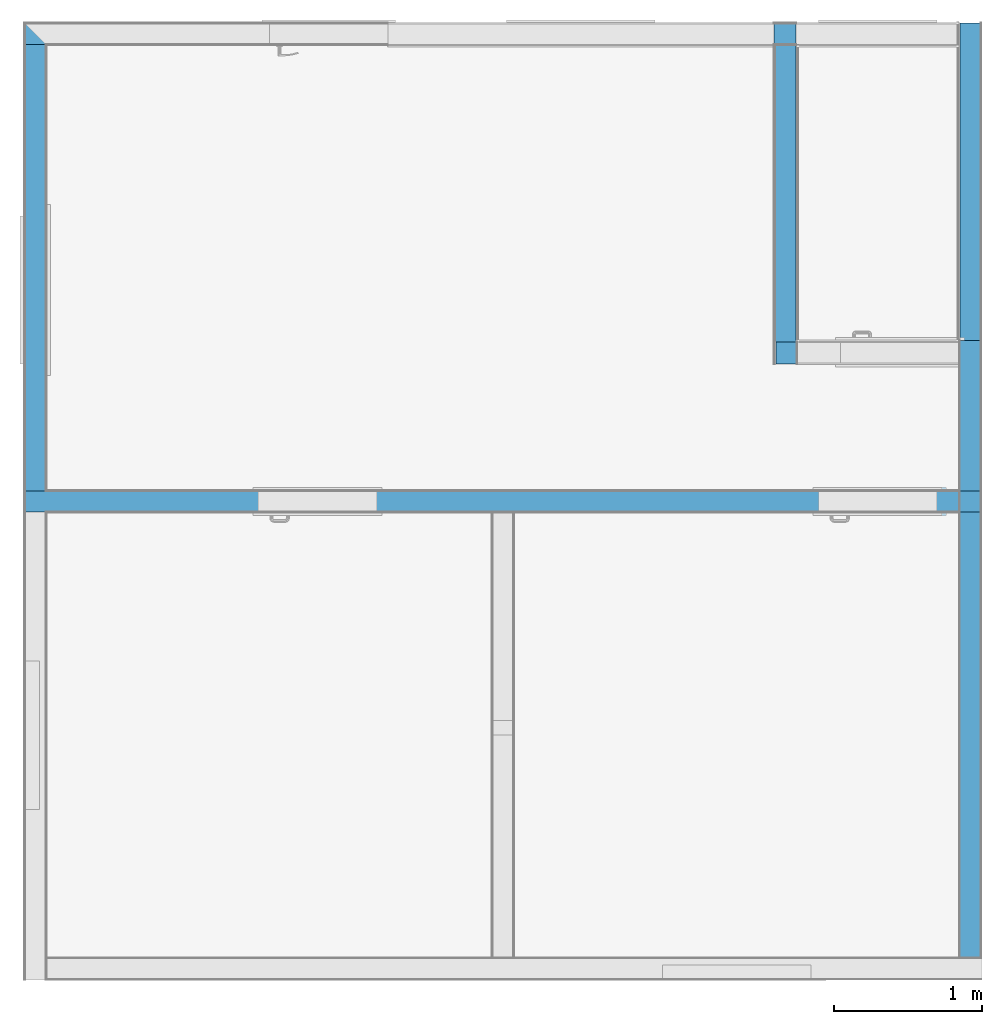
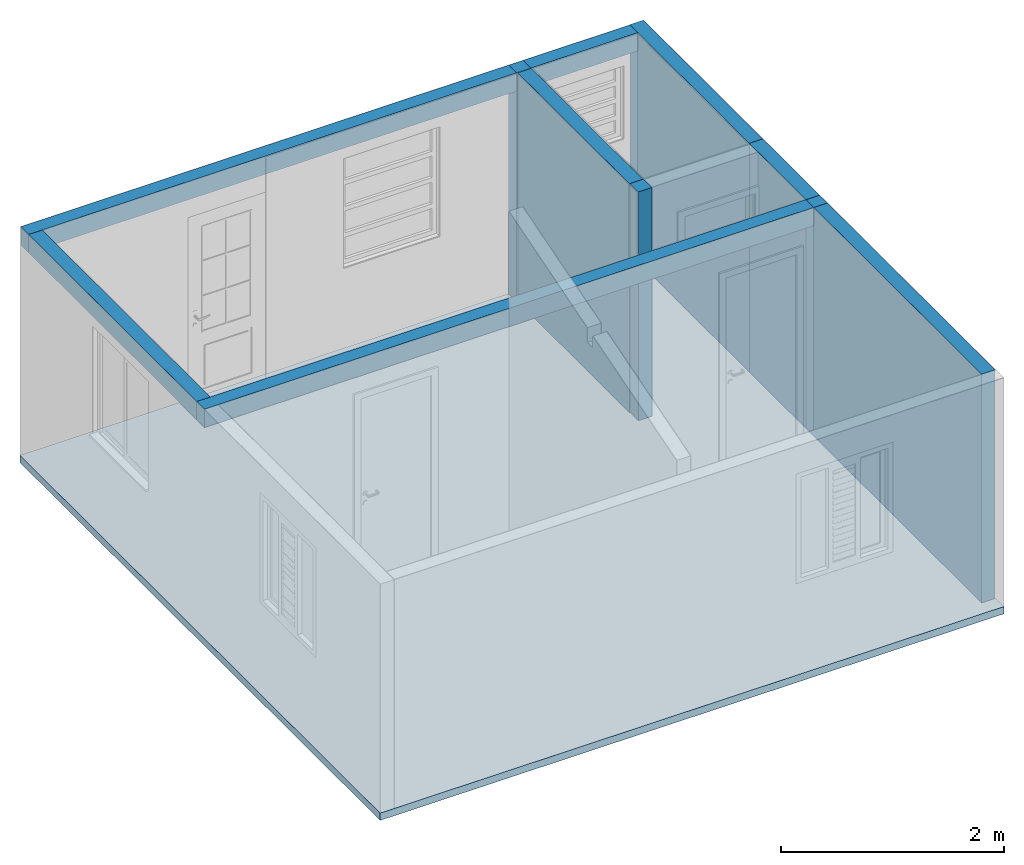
# One storey, part 1 of 7: 6 building element parts, 4 beams, 1 slab, 6 elements without a shape of their own.
"""IFC2X3 building model written with IfcOpenShell, lengths in millimetres."""

from ifc_helpers import new_model, entity, si_unit, converted_unit, derived_unit, money_unit, direction, frame, frame_2d, origin_with_axes, place, context, subcontext, project, spatial, polyline, rectangle, outline, extrude, boolean, faceted_brep, material, layer, layer_set, layer_usage, type_object, element, aggregate, save


model = new_model("IFC2X3")

# Units and contexts
model_context = context("Model", 3, precision=0.01, world=origin_with_axes(), true_north=direction((0.0, 1.0)))
body_context = subcontext(model_context, "Body", "Model", "MODEL_VIEW")
ifc_project = project(units=[si_unit("LENGTHUNIT", "METRE", prefix="MILLI"), si_unit("AREAUNIT", "SQUARE_METRE"), si_unit("VOLUMEUNIT", "CUBIC_METRE"), converted_unit("PLANEANGLEUNIT", "DEGREE", entity("IfcPlaneAngleMeasure", 0.0174532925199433), si_unit("PLANEANGLEUNIT", "RADIAN"), dimensions=[0, 0, 0, 0, 0, 0, 0]), money_unit("USD"), converted_unit("TIMEUNIT", "Year", entity("IfcTimeMeasure", 31557600.0), si_unit("TIMEUNIT", "SECOND"), dimensions=[0, 0, 1, 0, 0, 0, 0]), si_unit("MASSUNIT", "GRAM", prefix="KILO"), si_unit("THERMODYNAMICTEMPERATUREUNIT", "DEGREE_CELSIUS"), si_unit("LUMINOUSINTENSITYUNIT", "LUMEN"), si_unit("ENERGYUNIT", "JOULE", prefix="MEGA"), derived_unit("THERMALCONDUCTANCEUNIT", [(si_unit("POWERUNIT", "WATT"), 1), (si_unit("LENGTHUNIT", "METRE"), -1), (si_unit("THERMODYNAMICTEMPERATUREUNIT", "KELVIN"), -1)]), derived_unit("SPECIFICHEATCAPACITYUNIT", [(si_unit("ENERGYUNIT", "JOULE"), 1), (si_unit("MASSUNIT", "GRAM", prefix="KILO"), -1), (si_unit("THERMODYNAMICTEMPERATUREUNIT", "KELVIN"), -1)]), derived_unit("MASSDENSITYUNIT", [(si_unit("MASSUNIT", "GRAM", prefix="KILO"), 1), (si_unit("VOLUMEUNIT", "CUBIC_METRE"), -1)])], contexts=[model_context])

# Site, building, storey
site_placement = place(None, origin_with_axes())
site = spatial("IfcSite", under=ifc_project, at=site_placement, Name="Local", CompositionType="ELEMENT")
building_placement = place(site_placement, origin_with_axes())
building = spatial("IfcBuilding", under=site, at=building_placement, Name="Construção", CompositionType="ELEMENT")
storey_placement = place(building_placement, origin_with_axes())
storey = spatial("IfcBuildingStorey", under=building, at=storey_placement, Name="Pavimento Térreo", CompositionType="ELEMENT", Elevation=0.0)

# Beams
ifc_material_1 = material(Name="Concreto - Estrutural")
beam_type = type_object("IfcBeamType", Name="Concreto - Estrutural 140 x 200", PredefinedType="BEAM")
beam_1_placement = place(storey_placement, frame((5.000042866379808, 6375.000000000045, 2500.0), z_axis=(0.0, 0.0, 1.0), x_axis=(0.0, -1.0, 0.0)))
element("IfcBeam", 1, at=beam_1_placement, inside=storey, type_object=beam_type, material=ifc_material_1, Name="V01", ObjectType="BEAM", context=body_context, shape_type="SweptSolid", body=[
    extrude(rectangle(XDim=200.0, YDim=140.0, at=frame_2d((-100.0, 0.0), x_axis=(1.0, 0.0))), frame((0.0, 0.0, 0.0), z_axis=(0.0, 1.0, 0.0), x_axis=(0.0, 0.0, 1.0)), (0.0, 0.0, 1.0), 6439.999957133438),
])
beam_2_placement = place(storey_placement, frame((6374.999999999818, 6305.000000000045, 2500.0), z_axis=(0.0, 0.0, 1.0), x_axis=(-1.0, 0.0, 0.0)))
element("IfcBeam", 2, at=beam_2_placement, inside=storey, type_object=beam_type, material=ifc_material_1, Name="V02", ObjectType="BEAM", context=body_context, shape_type="SweptSolid", body=[
    extrude(rectangle(XDim=200.0, YDim=140.0, at=frame_2d((-100.0, 0.0), x_axis=(1.0, 0.0))), frame((0.0, 0.0, 0.0), z_axis=(0.0, 1.0, 0.0), x_axis=(0.0, 0.0, 1.0)), (0.0, 0.0, 1.0), 3149.999999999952),
])
beam_3_placement = place(storey_placement, frame((6304.999999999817, 3225.000000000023, 2500.0), z_axis=(0.0, 0.0, 1.0), x_axis=(0.0, 1.0, 0.0)))
element("IfcBeam", 3, at=beam_3_placement, inside=storey, type_object=beam_type, material=ifc_material_1, Name="V03", ObjectType="BEAM", context=body_context, shape_type="SweptSolid", body=[
    extrude(rectangle(XDim=200.0, YDim=140.0, at=frame_2d((-100.0, 0.0), x_axis=(1.0, 0.0))), frame((0.0, 0.0, 0.0), z_axis=(0.0, 1.0, 0.0), x_axis=(0.0, 0.0, 1.0)), (0.0, 0.0, 1.0), 6299.999957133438),
])
beam_4_placement = place(storey_placement, frame((74.99999999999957, 3295.000000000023, 2500.0), z_axis=(0.0, 0.0, 1.0), x_axis=(1.0, 0.0, 0.0)))
element("IfcBeam", 4, at=beam_4_placement, inside=storey, type_object=beam_type, material=ifc_material_1, Name="V04", ObjectType="BEAM", context=body_context, shape_type="SweptSolid", body=[
    extrude(rectangle(XDim=200.0, YDim=140.0, at=frame_2d((-100.0, 0.0), x_axis=(1.0, 0.0))), frame((0.0, 0.0, 0.0), z_axis=(0.0, 1.0, 0.0), x_axis=(0.0, 0.0, 1.0)), (0.0, 0.0, 1.0), 3010.000000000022),
])

# Slab
ifc_material_2 = material(Name="Concreto Armado - Estrutural")
ifc_layer = layer(ifc_material_2, 80.0, ventilated="UNKNOWN")
ifc_layer_set = layer_set([ifc_layer], Name="Concreto Armado - Estrutural 80")
ifc_layer_usage = layer_usage(ifc_layer_set, "AXIS3", "NEGATIVE", 80.0)
slab_type = type_object("IfcSlabType", Name="Concreto Armado - Estrutural 80", PredefinedType="NOTDEFINED")
slab_placement = place(storey_placement, origin_with_axes())
element("IfcSlab", 5, at=slab_placement, inside=storey, type_object=slab_type, material=ifc_layer_usage, Name="L01", PredefinedType="NOTDEFINED", context=body_context, shape_type="SweptSolid", body=[
    extrude(outline(polyline([(0.0, 0.0), (6449.999999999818, 0.0), (6449.999999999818, 6450.000000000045), (0.0, 6450.000000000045), (0.0, 0.0)])), frame((0.0, 0.0, -80.0), z_axis=(0.0, 0.0, 1.0), x_axis=(1.0, 0.0, 0.0)), (0.0, 0.0, 1.0), 80.0),
])

# Wall, building element part
wall_type_1 = type_object("IfcWallType", Name="Alvenaria 140, Rebocada 2 Faces 150", PredefinedType="NOTDEFINED")
wall_1_placement = place(storey_placement, frame((6449.999999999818, 150.0, 0.0), z_axis=(0.0, 0.0, 1.0), x_axis=(0.0, 1.0, 0.0)))
wall_1 = element("IfcWall", 6, at=wall_1_placement, inside=storey, type_object=wall_type_1, Name="Parede-03 - Trecho 3")
ifc_material_3 = material(Name="Bloco de Concreto - Estrutural DEF")
building_element_part_1_placement = place(wall_1_placement, origin_with_axes())
building_element_part_1 = element("IfcBuildingElementPart", 7, at=building_element_part_1_placement, material=ifc_material_3, Name="Bloco de Concreto - Estrutural DEF", context=body_context, shape_type="CSG", body=[
    boolean("DIFFERENCE", boolean("DIFFERENCE", extrude(outline(polyline([(0.0, 4.999999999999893), (3145.00000000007, 4.999999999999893), (3145.00000000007, 145.0000000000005), (0.0, 145.0000000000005), (0.0, 4.999999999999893)])), origin_with_axes(), (0.0, 0.0, 1.0), 2500.0), faceted_brep([(3005.000000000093, 4.999999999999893, 2500.0), (3005.000000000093, 4.999999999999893, 2300.0), (3145.00000000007, 4.999999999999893, 2300.0), (3145.00000000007, 4.999999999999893, 2500.0), (3005.000000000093, 144.9999999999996, 2500.0), (3005.000000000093, 144.9999999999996, 2300.0), (3145.00000000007, 144.9999999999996, 2300.0), (3145.00000000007, 145.0000000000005, 2500.0)], [[[0, 1, 2, 3]], [[1, 0, 4, 5]], [[6, 2, 1, 5]], [[2, 6, 7, 3]], [[4, 0, 3, 7]], [[5, 4, 7, 6]]])), faceted_brep([(3005.000000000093, 144.9999999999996, 2500.0), (3005.000000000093, 144.9999999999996, 2300.0), (3145.00000000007, 144.9999999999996, 2300.0), (3145.00000000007, 145.0000000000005, 2500.0), (3005.000000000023, 150.0000000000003, 2500.0), (3005.000000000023, 150.0000000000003, 2300.0), (3145.000000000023, 150.0000000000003, 2300.0), (3145.00000000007, 150.0000000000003, 2500.0)], [[[0, 1, 2, 3]], [[0, 4, 5, 1]], [[6, 2, 1, 5]], [[2, 6, 7, 3]], [[4, 0, 3, 7]], [[5, 4, 7, 6]]])),
])
aggregate(wall_1, [building_element_part_1])

wall_type_2 = type_object("IfcWallType", Name="Alvenaria 140, Azulejo + Rebocada 160", PredefinedType="NOTDEFINED")
wall_2_placement = place(storey_placement, frame((5049.999999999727, 4299.999999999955, 0.0), z_axis=(0.0, 0.0, 1.0), x_axis=(0.0, -1.0, 0.0)))
wall_2 = element("IfcWall", 8, at=wall_2_placement, inside=storey, type_object=wall_type_2, Name="Parede-07 - Trecho 2")
building_element_part_2_placement = place(wall_2_placement, origin_with_axes())
building_element_part_2 = element("IfcBuildingElementPart", 9, at=building_element_part_2_placement, material=ifc_material_3, Name="Bloco de Concreto - Estrutural DEF", context=body_context, shape_type="SweptSolid", body=[
    extrude(outline(polyline([(0.0, 14.99999999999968), (150.0000000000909, 14.99999999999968), (150.0000000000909, 155.0000000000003), (0.0, 155.0000000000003), (0.0, 14.99999999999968)])), origin_with_axes(), (0.0, 0.0, 1.0), 2500.0),
])
aggregate(wall_2, [building_element_part_2])

wall_type_3 = type_object("IfcWallType", Name="Alvenaria 140, Azulejo + Azulejo 165", PredefinedType="NOTDEFINED")
wall_3_placement = place(storey_placement, frame((5049.999999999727, 6299.999999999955, 0.0), z_axis=(0.0, 0.0, 1.0), x_axis=(0.0, -1.0, 0.0)))
wall_3 = element("IfcWall", 10, at=wall_3_placement, inside=storey, type_object=wall_type_3, Name="Parede-07 - Trecho 1")
building_element_part_3_placement = place(wall_3_placement, origin_with_axes())
building_element_part_3 = element("IfcBuildingElementPart", 11, at=building_element_part_3_placement, material=ifc_material_3, Name="Bloco de Concreto - Estrutural DEF", context=body_context, shape_type="SweptSolid", body=[
    extrude(outline(polyline([(0.0, 9.999999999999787), (2000.0, 9.999999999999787), (2000.0, 150.0000000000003), (0.0, 150.0000000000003), (0.0, 9.999999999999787)])), origin_with_axes(), (0.0, 0.0, 1.0), 2500.0),
])
aggregate(wall_3, [building_element_part_3])

wall_type_4 = type_object("IfcWallType", Name="Alvenaria 140, Rebocada + Azulejo 160", PredefinedType="NOTDEFINED")
wall_4_placement = place(storey_placement, frame((6449.999999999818, 4309.999999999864, 0.0), z_axis=(0.0, 0.0, 1.0), x_axis=(0.0, 1.0, 0.0)))
wall_4 = element("IfcWall", 12, at=wall_4_placement, inside=storey, type_object=wall_type_4, Name="Parede-03 - Trecho 1")
building_element_part_4_placement = place(wall_4_placement, origin_with_axes())
building_element_part_4 = element("IfcBuildingElementPart", 13, at=building_element_part_4_placement, material=ifc_material_3, Name="Bloco de Concreto - Estrutural DEF", context=body_context, shape_type="SweptSolid", body=[
    extrude(outline(polyline([(0.0, 4.999999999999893), (2140.000000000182, 4.999999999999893), (2140.000000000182, 145.0000000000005), (0.0, 145.0000000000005), (0.0, 4.999999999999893)])), origin_with_axes(), (0.0, 0.0, 1.0), 2500.0),
])
aggregate(wall_4, [building_element_part_4])

wall_5_placement = place(storey_placement, frame((5199.999999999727, 6450.000000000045, 0.0), z_axis=(0.0, 0.0, 1.0), x_axis=(-1.0, 0.0, 0.0)))
wall_5 = element("IfcWall", 14, at=wall_5_placement, inside=storey, type_object=wall_type_1, Name="Parede-04 - Trecho 3")
building_element_part_5_placement = place(wall_5_placement, origin_with_axes())
building_element_part_5 = element("IfcBuildingElementPart", 15, at=building_element_part_5_placement, material=ifc_material_3, Name="Bloco de Concreto - Estrutural DEF", context=body_context, shape_type="SweptSolid", body=[
    extrude(outline(polyline([(0.0, 4.999999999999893), (150.0000000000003, 4.999999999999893), (150.0000000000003, 145.0000000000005), (0.0, 145.0000000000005), (0.0, 4.999999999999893)])), origin_with_axes(), (0.0, 0.0, 1.0), 2500.0),
])
aggregate(wall_5, [building_element_part_5])

wall_6_placement = place(storey_placement, frame((6449.999999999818, 3295.00000000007, 0.0), z_axis=(0.0, 0.0, 1.0), x_axis=(0.0, 1.0, 0.0)))
wall_6 = element("IfcWall", 16, at=wall_6_placement, inside=storey, type_object=wall_type_1, Name="Parede-03 - Trecho 2")
building_element_part_6_placement = place(wall_6_placement, origin_with_axes())
building_element_part_6 = element("IfcBuildingElementPart", 17, at=building_element_part_6_placement, material=ifc_material_3, Name="Bloco de Concreto - Estrutural DEF", context=body_context, shape_type="SweptSolid", body=[
    extrude(outline(polyline([(0.0, 4.999999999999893), (1014.999999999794, 4.999999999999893), (1014.999999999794, 145.0000000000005), (0.0, 145.0000000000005), (0.0, 4.999999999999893)])), origin_with_axes(), (0.0, 0.0, 1.0), 2500.0),
])
aggregate(wall_6, [building_element_part_6])

save(model, "model.ifc")
